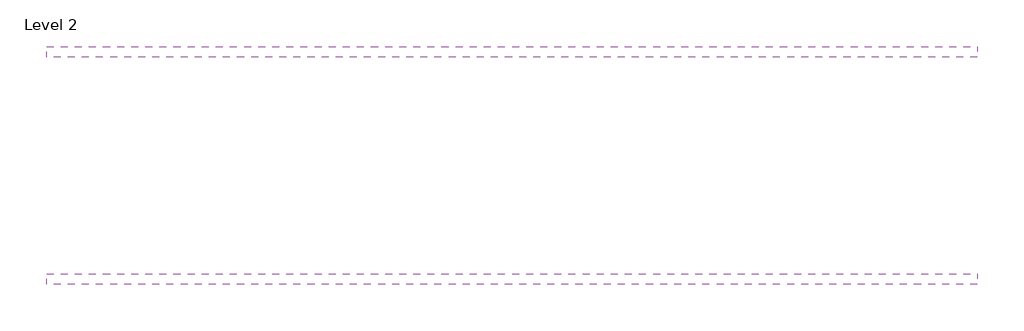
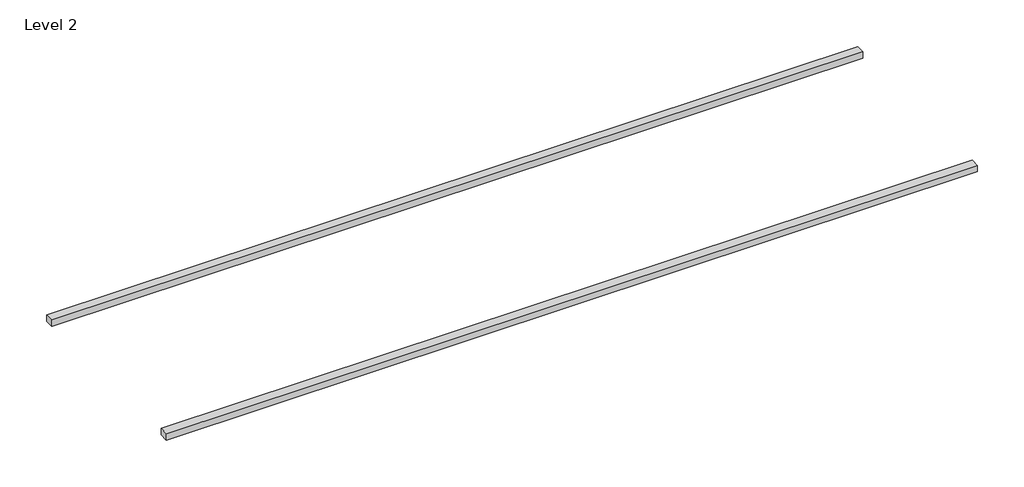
# One storey: 2 proxies.
"""IFC4 building model written with IfcOpenShell, lengths in millimetres."""

from ifc_helpers import new_model, si_unit, frame, origin, place, context, project, spatial, polyline, outline, extrude, element, save

model = new_model("IFC4")

# Units and contexts
model_context = context("Model", 3, world=origin())
ifc_project = project(units=[si_unit("LENGTHUNIT", "METRE", prefix="MILLI")], contexts=[model_context])

# Site, building, storey
site = spatial("IfcSite", under=ifc_project)
building = spatial("IfcBuilding", under=site)
storey = spatial("IfcBuildingStorey", under=building, Name="Level 2", Elevation=4000.0)

# Proxies
placement = place(None, origin())
element("IfcBuildingElementProxy", 1, Name="Reveals", at=placement, inside=storey, context=model_context, shape_type="SweptSolid", body=[
    extrude(outline(polyline([(-12762.7235658, 9124.9834971), (-12762.7235658, 9227.4834971), (-3762.7235658, 9227.4834971), (-3762.7235658, 9124.9834971), (-12762.7235658, 9124.9834971)])), frame((0.0, 0.0, 7700.0), z_axis=(0.0, 0.0, 1.0), x_axis=(1.0, 0.0, 0.0)), (0.0, 0.0, 1.0), 75.0),
])
element("IfcBuildingElementProxy", 2, Name="Reveals", at=placement, inside=storey, context=model_context, shape_type="SweptSolid", body=[
    extrude(outline(polyline([(-12762.7235658, 6924.9834971), (-12762.7235658, 7027.4834971), (-3762.7235658, 7027.4834971), (-3762.7235658, 6924.9834971), (-12762.7235658, 6924.9834971)])), frame((0.0, 0.0, 7700.0), z_axis=(0.0, 0.0, 1.0), x_axis=(1.0, 0.0, 0.0)), (0.0, 0.0, 1.0), 75.0),
])

save(model, "model.ifc")
